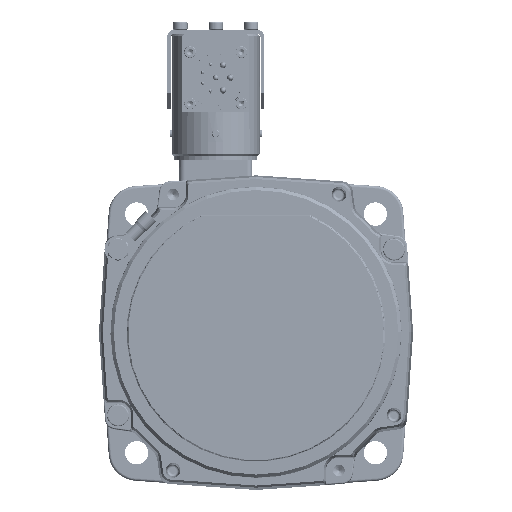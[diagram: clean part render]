
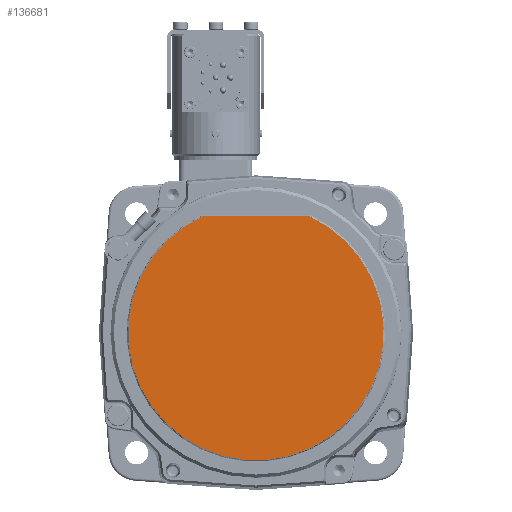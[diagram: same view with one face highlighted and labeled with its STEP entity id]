
A CAD part, top view. The second image highlights one B-rep face of the part: STEP entity #136681.
In plain terms, the highlighted planar face has unit normal (0, 0, 1).
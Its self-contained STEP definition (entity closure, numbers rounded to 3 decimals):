
#128182=CARTESIAN_POINT('',(0.,0.,63.9));
#128183=DIRECTION('',(0.,0.,-1.));
#128184=DIRECTION('',(0.418,0.908,0.));
#128185=AXIS2_PLACEMENT_3D('',#128182,#128183,#128184);
#128194=DIRECTION('',(-1.,0.,0.));
#128195=VECTOR('',#128194,41.125);
#128196=CARTESIAN_POINT('',(20.562,44.7,63.9));
#128197=LINE('',#128196,#128195);
#128872=CARTESIAN_POINT('',(20.562,44.7,63.9));
#128873=CARTESIAN_POINT('',(-20.562,44.7,63.9));
#128874=VERTEX_POINT('',#128872);
#128875=VERTEX_POINT('',#128873);
#136672=CARTESIAN_POINT('',(0.,0.,63.9));
#136673=DIRECTION('',(0.,0.,1.));
#136674=DIRECTION('',(1.,0.,0.));
#136675=AXIS2_PLACEMENT_3D('',#136672,#136673,#136674);
#136676=PLANE('',#136675);
#136677=ORIENTED_EDGE('',*,*,#136651,.T.);
#136678=ORIENTED_EDGE('',*,*,#136663,.F.);
#136679=EDGE_LOOP('',(#136677,#136678));
#136680=FACE_OUTER_BOUND('',#136679,.F.);
#136681=ADVANCED_FACE('',(#136680),#136676,.T.);
#128186=CIRCLE('',#128185,49.203);
#136651=EDGE_CURVE('',#128874,#128875,#128186,.T.);
#136663=EDGE_CURVE('',#128874,#128875,#128197,.T.);
